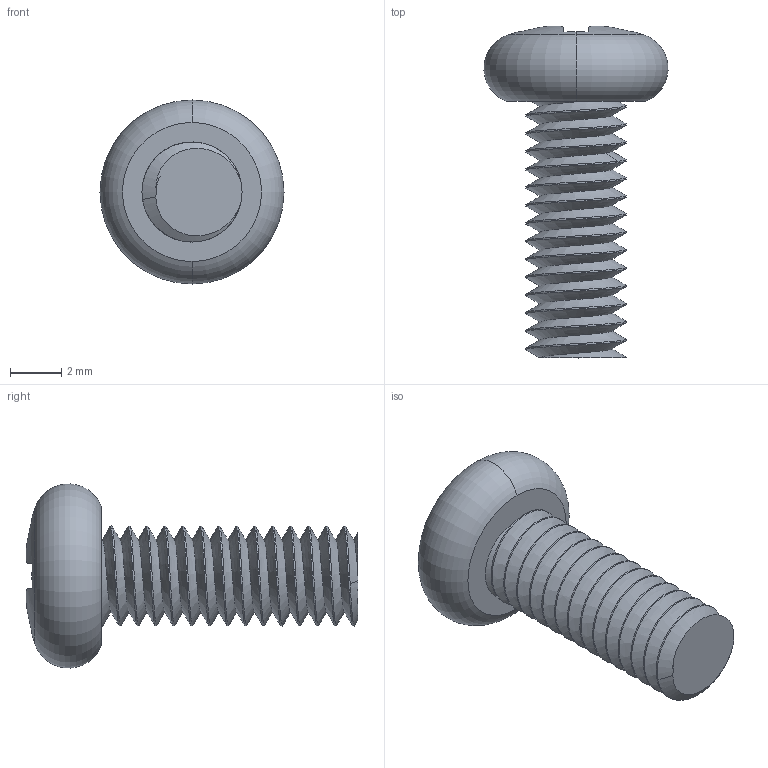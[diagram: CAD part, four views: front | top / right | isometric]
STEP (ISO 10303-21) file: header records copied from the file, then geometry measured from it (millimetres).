
FILE_DESCRIPTION (( 'STEP AP214' ), '1' );
FILE_NAME ('LOS-10.step', '2025-12-23T15:53:14', ( '' ), ( '' ), 'SwSTEP 2.0', 'SolidWorks 2026', '' );
FILE_SCHEMA (( 'AUTOMOTIVE_DESIGN' ));
Length unit declared in the file: inch
Products named in the file (1): LOS-10
Bounding box: 7.18 x 12.94 x 7.18 mm (x, y, z)
Volume: 171.5 mm3; surface area: 344 mm2
Topology: 1 solids, 1 shells, 73 faces, 192 edges, 122 vertices
Faces by surface type: cylinder 38, plane 18, bspline 11, cone 4, torus 2
Entity records: 5842 total; most frequent: CARTESIAN_POINT 4251, ORIENTED_EDGE 384, DIRECTION 232, EDGE_CURVE 192, VERTEX_POINT 122, B_SPLINE_CURVE_WITH_KNOTS 109, AXIS2_PLACEMENT_3D 86, EDGE_LOOP 74
